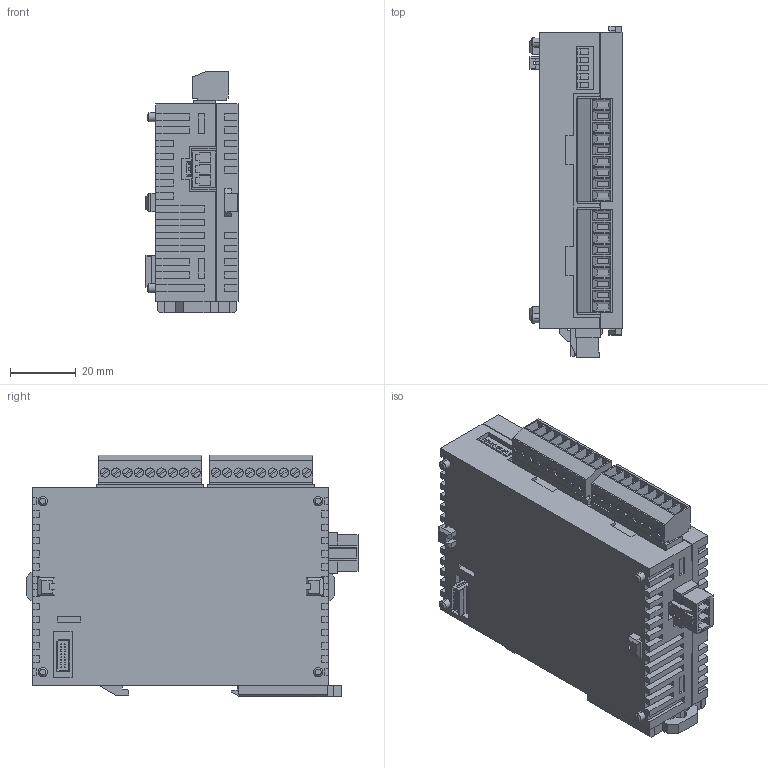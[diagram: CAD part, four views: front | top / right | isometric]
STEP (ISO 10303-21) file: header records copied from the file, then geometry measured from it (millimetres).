
FILE_DESCRIPTION (( 'STEP AP203' ), '1' );
FILE_NAME ('afp0ra42.STEP', '2015-03-25T02:13:56', ( '' ), ( '' ), 'SwSTEP 2.0', 'SolidWorks 2010', '' );
FILE_SCHEMA (( 'CONFIG_CONTROL_DESIGN' ));
Length unit declared in the file: millimetre
Products named in the file (1): afp0ra42
Bounding box: 28 x 101 x 73.45 mm (x, y, z)
Volume: 140302.6 mm3; surface area: 27411.2 mm2
Topology: 1 solids, 1 shells, 990 faces, 2654 edges, 1747 vertices
Faces by surface type: plane 897, cylinder 69, bspline 16, cone 8
Entity records: 30665 total; most frequent: CARTESIAN_POINT 5632, ORIENTED_EDGE 5308, DIRECTION 4822, EDGE_CURVE 2654, VECTOR 2436, LINE 2436, VERTEX_POINT 1747, AXIS2_PLACEMENT_3D 1193
